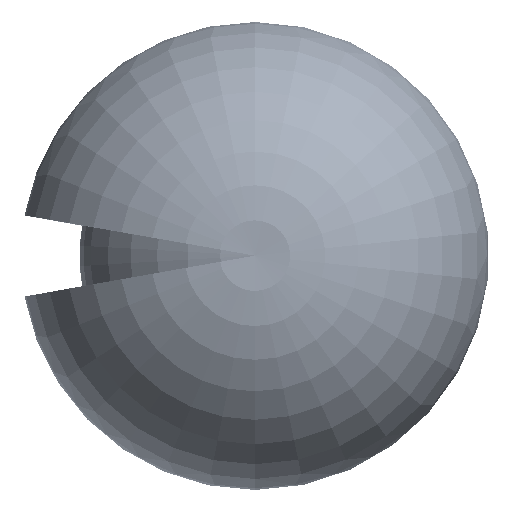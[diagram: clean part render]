
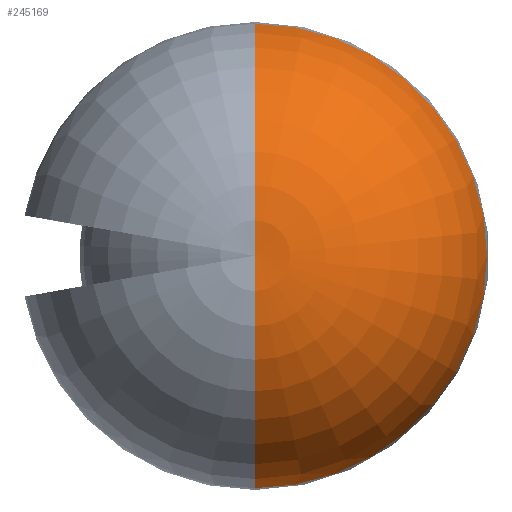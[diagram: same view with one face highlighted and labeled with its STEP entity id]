
A CAD part, top view. The second image highlights one B-rep face of the part: STEP entity #245169.
In plain terms, the highlighted toroidal (fillet/blend) face has major radius 340 mm and minor radius 2775.01 mm.
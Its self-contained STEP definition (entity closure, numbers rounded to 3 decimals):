
#6138 = DIRECTION ( 'NONE',  ( 0., 0., -1. ) ) ;
#32808 = CIRCLE ( 'NONE', #468400, 3072.851 ) ;
#49695 = CARTESIAN_POINT ( 'NONE',  ( 0., 0., 780. ) ) ;
#51757 = DIRECTION ( 'NONE',  ( 1., 0., 0. ) ) ;
#70840 = TOROIDAL_SURFACE ( 'NONE', #397342, 340., 2775.01 ) ;
#80197 = CARTESIAN_POINT ( 'NONE',  ( 0., 340., 780. ) ) ;
#176075 = CARTESIAN_POINT ( 'NONE',  ( 0., -3072.851, 1261.875 ) ) ;
#181020 = CARTESIAN_POINT ( 'NONE',  ( 0., 3072.851, 1261.875 ) ) ;
#205386 = EDGE_LOOP ( 'NONE', ( #360901, #504821, #348473 ) ) ;
#229842 = EDGE_CURVE ( 'NONE', #556651, #256928, #456431, .T. ) ;
#241344 = FACE_OUTER_BOUND ( 'NONE', #205386, .T. ) ;
#245169 = ADVANCED_FACE ( 'NONE', ( #241344 ), #70840, .T. ) ;
#256928 = VERTEX_POINT ( 'NONE', #176075 ) ;
#260447 = CIRCLE ( 'NONE', #468230, 2775.01 ) ;
#262953 = DIRECTION ( 'NONE',  ( -1., 0., 0. ) ) ;
#278366 = AXIS2_PLACEMENT_3D ( 'NONE', #327486, #51757, #569385 ) ;
#317694 = EDGE_CURVE ( 'NONE', #493941, #256928, #32808, .T. ) ;
#327486 = CARTESIAN_POINT ( 'NONE',  ( 0., -340., 780. ) ) ;
#348473 = ORIENTED_EDGE ( 'NONE', *, *, #317694, .F. ) ;
#359211 = DIRECTION ( 'NONE',  ( 0., 0., 1. ) ) ;
#360901 = ORIENTED_EDGE ( 'NONE', *, *, #372205, .F. ) ;
#372205 = EDGE_CURVE ( 'NONE', #556651, #493941, #260447, .T. ) ;
#386003 = DIRECTION ( 'NONE',  ( 0., 0., -1. ) ) ;
#397342 = AXIS2_PLACEMENT_3D ( 'NONE', #49695, #6138, #526730 ) ;
#441705 = DIRECTION ( 'NONE',  ( 0., 1., 0. ) ) ;
#456431 = CIRCLE ( 'NONE', #278366, 2775.01 ) ;
#468230 = AXIS2_PLACEMENT_3D ( 'NONE', #80197, #262953, #359211 ) ;
#468400 = AXIS2_PLACEMENT_3D ( 'NONE', #578311, #386003, #441705 ) ;
#493941 = VERTEX_POINT ( 'NONE', #181020 ) ;
#504821 = ORIENTED_EDGE ( 'NONE', *, *, #229842, .T. ) ;
#526730 = DIRECTION ( 'NONE',  ( 0., 1., 0. ) ) ;
#548353 = CARTESIAN_POINT ( 'NONE',  ( 0., 0., 3534.102 ) ) ;
#556651 = VERTEX_POINT ( 'NONE', #548353 ) ;
#569385 = DIRECTION ( 'NONE',  ( 0., 1., 0. ) ) ;
#578311 = CARTESIAN_POINT ( 'NONE',  ( 0., 0., 1261.875 ) ) ;
